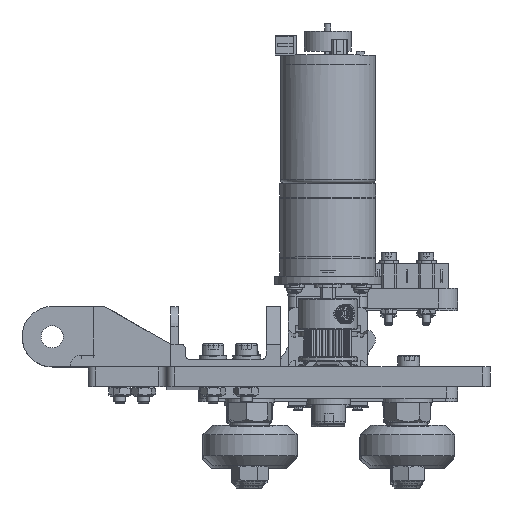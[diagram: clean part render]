
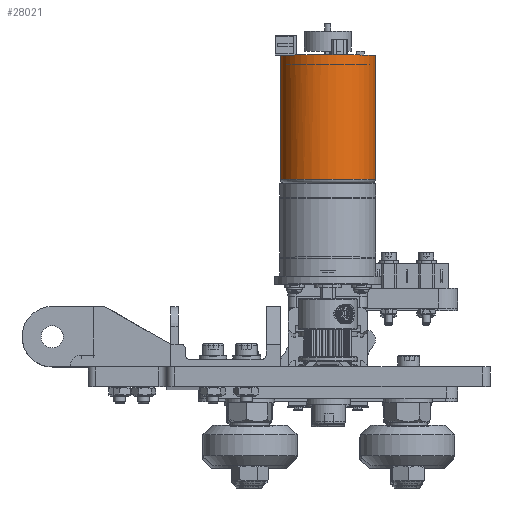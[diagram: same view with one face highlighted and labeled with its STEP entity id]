
A CAD part, top view. The second image highlights one B-rep face of the part: STEP entity #28021.
In plain terms, the highlighted cylindrical face has radius 12.125 mm (diameter 24.25 mm), a full revolution.
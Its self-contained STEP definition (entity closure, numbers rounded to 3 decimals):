
#1208=CYLINDRICAL_SURFACE('',#30362,12.125);
#2246=FACE_OUTER_BOUND('',#3915,.T.);
#3915=EDGE_LOOP('',(#19316,#19317,#19318,#19319,#19320,#19321,#19322));
#5958=LINE('',#42841,#8239);
#8239=VECTOR('',#34151,12.125);
#10310=CIRCLE('',#30353,12.125);
#10311=CIRCLE('',#30354,12.125);
#10318=CIRCLE('',#30363,12.125);
#10319=CIRCLE('',#30364,12.125);
#10320=CIRCLE('',#30365,12.125);
#11878=VERTEX_POINT('',#42777);
#11879=VERTEX_POINT('',#42779);
#11880=VERTEX_POINT('',#42781);
#11907=VERTEX_POINT('',#42840);
#11908=VERTEX_POINT('',#42842);
#14744=EDGE_CURVE('',#11878,#11879,#10310,.T.);
#14745=EDGE_CURVE('',#11879,#11880,#10311,.T.);
#14774=EDGE_CURVE('',#11880,#11878,#10318,.T.);
#14775=EDGE_CURVE('',#11879,#11907,#5958,.T.);
#14776=EDGE_CURVE('',#11907,#11908,#10319,.F.);
#14777=EDGE_CURVE('',#11908,#11907,#10320,.F.);
#19316=ORIENTED_EDGE('',*,*,#14774,.F.);
#19317=ORIENTED_EDGE('',*,*,#14745,.F.);
#19318=ORIENTED_EDGE('',*,*,#14775,.T.);
#19319=ORIENTED_EDGE('',*,*,#14776,.T.);
#19320=ORIENTED_EDGE('',*,*,#14777,.T.);
#19321=ORIENTED_EDGE('',*,*,#14775,.F.);
#19322=ORIENTED_EDGE('',*,*,#14744,.F.);
#28021=ADVANCED_FACE('',(#2246),#1208,.T.);
#30353=AXIS2_PLACEMENT_3D('',#42780,#34107,#34108);
#30354=AXIS2_PLACEMENT_3D('',#42782,#34109,#34110);
#30362=AXIS2_PLACEMENT_3D('',#42838,#34147,#34148);
#30363=AXIS2_PLACEMENT_3D('',#42839,#34149,#34150);
#30364=AXIS2_PLACEMENT_3D('',#42843,#34152,#34153);
#30365=AXIS2_PLACEMENT_3D('',#42844,#34154,#34155);
#34107=DIRECTION('center_axis',(0.,0.,-1.));
#34108=DIRECTION('ref_axis',(-1.,0.,0.));
#34109=DIRECTION('center_axis',(0.,0.,-1.));
#34110=DIRECTION('ref_axis',(-1.,0.,0.));
#34147=DIRECTION('center_axis',(0.,0.,-1.));
#34148=DIRECTION('ref_axis',(-1.,0.,0.));
#34149=DIRECTION('center_axis',(0.,0.,-1.));
#34150=DIRECTION('ref_axis',(-1.,0.,0.));
#34151=DIRECTION('',(0.,0.,1.));
#34152=DIRECTION('center_axis',(0.,0.,1.));
#34153=DIRECTION('ref_axis',(1.,0.,0.));
#34154=DIRECTION('center_axis',(0.,0.,1.));
#34155=DIRECTION('ref_axis',(1.,0.,0.));
#42777=CARTESIAN_POINT('',(6.,10.536,-1.5));
#42779=CARTESIAN_POINT('',(12.125,0.,-1.5));
#42780=CARTESIAN_POINT('Origin',(0.,0.,-1.5));
#42781=CARTESIAN_POINT('',(-6.141,10.455,-1.5));
#42782=CARTESIAN_POINT('Origin',(0.,0.,-1.5));
#42838=CARTESIAN_POINT('Origin',(0.,0.,31.));
#42839=CARTESIAN_POINT('Origin',(0.,0.,-1.5));
#42840=CARTESIAN_POINT('',(12.125,0.,30.));
#42841=CARTESIAN_POINT('',(12.125,0.,31.));
#42842=CARTESIAN_POINT('',(-12.125,0.,30.));
#42843=CARTESIAN_POINT('Origin',(0.,0.,30.));
#42844=CARTESIAN_POINT('Origin',(0.,0.,30.));
